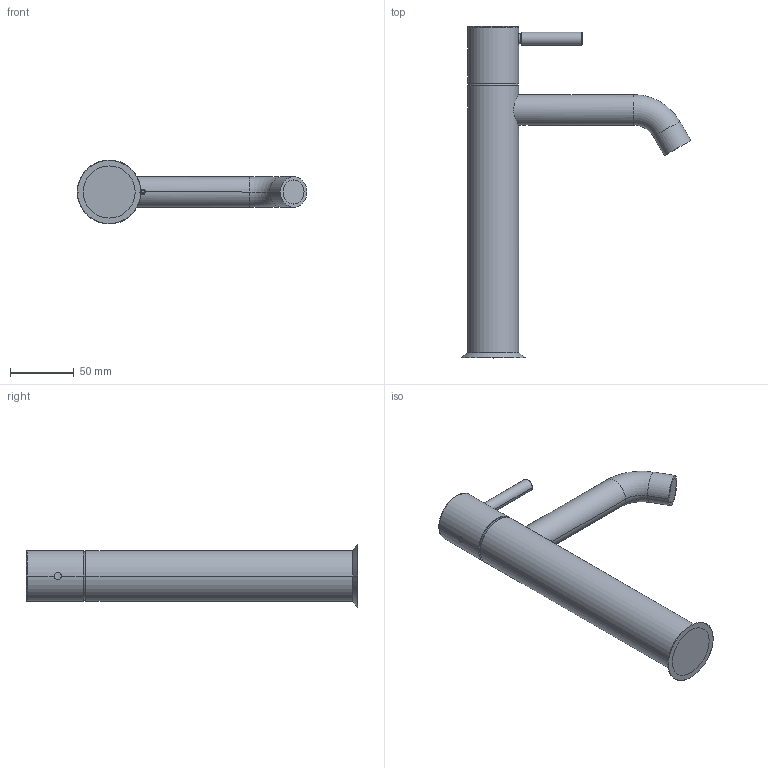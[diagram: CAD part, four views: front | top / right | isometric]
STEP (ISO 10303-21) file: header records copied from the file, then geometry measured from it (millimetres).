
FILE_DESCRIPTION((''),'2;1');
FILE_NAME('3D_SW0021','2026-02-13T14:32:51',('giacomo.molli'),(''),'CREO PARAMETRIC BY PTC INC, 2025010','CREO PARAMETRIC BY PTC INC, 2025010','');
FILE_SCHEMA(('AUTOMOTIVE_DESIGN { 1 0 10303 214 1 1 1 1 }'));
Length unit declared in the file: millimetre
Products named in the file (1): 3D_SW0021
Bounding box: 180.49 x 260.9 x 50.2 mm (x, y, z)
Volume: 161876.1 mm3; surface area: 84070.9 mm2
Topology: 1 solids, 1 shells, 124 faces, 271 edges, 160 vertices
Faces by surface type: cylinder 52, torus 22, plane 21, cone 14, bspline 9, sphere 6
Entity records: 6702 total; most frequent: CARTESIAN_POINT 3050, DIRECTION 602, ORIENTED_EDGE 534, EDGE_CURVE 267, AXIS2_PLACEMENT_3D 259, VERTEX_POINT 160, EDGE_LOOP 139, CIRCLE 138
